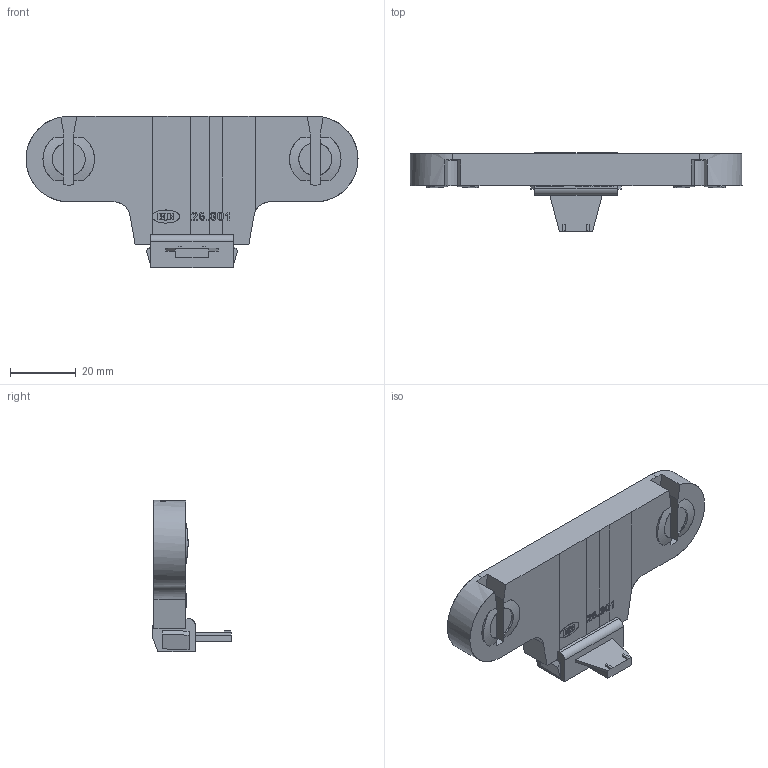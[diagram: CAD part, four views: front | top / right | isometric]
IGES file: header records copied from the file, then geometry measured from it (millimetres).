
Start section: Surface Model. Bezier boundary curves.
Global section: file name: 00IYY0JZ01.igs; native system: TRANS-3D by CORETECH International; preprocessor: 2.1; date: 020503.074243; units: millimetre
Bounding box: 101 x 24 x 46 mm (x, y, z)
Surface area: 10894.3 mm2 (no closed solid volume)
Topology: 0 solids, 0 shells, 368 faces, 2168 edges, 2168 vertices
Faces by surface type: bspline 368
